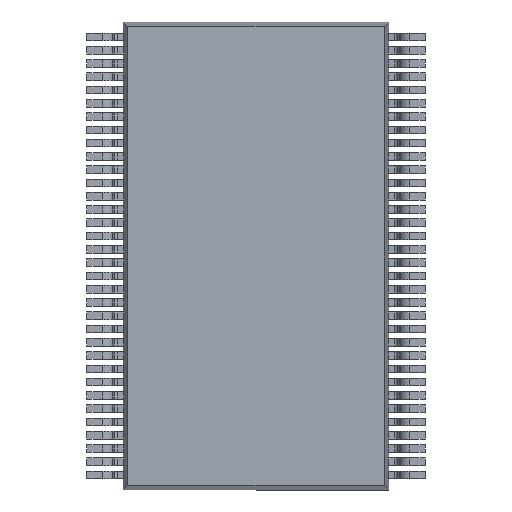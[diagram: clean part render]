
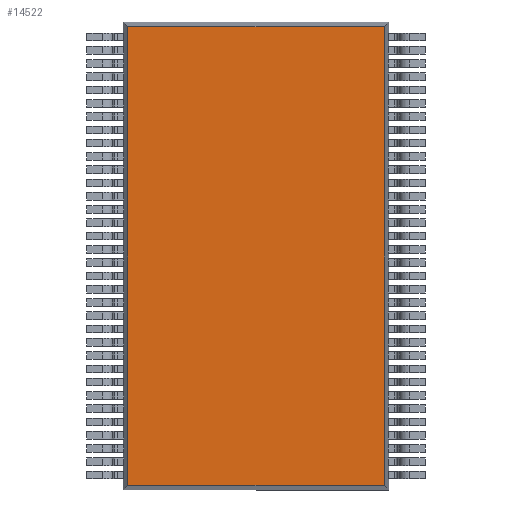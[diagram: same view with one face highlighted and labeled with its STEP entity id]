
A CAD part, front view. The second image highlights one B-rep face of the part: STEP entity #14522.
In plain terms, the highlighted planar face has unit normal (0, -1, 0).
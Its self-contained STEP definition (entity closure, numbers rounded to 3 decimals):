
#778 = CARTESIAN_POINT ( 'NONE',  ( -3.859, 0.1, 6.909 ) ) ;
#780 = CARTESIAN_POINT ( 'NONE',  ( -3.859, 0.1, -6.909 ) ) ;
#785 = CARTESIAN_POINT ( 'NONE',  ( 3.859, 0.1, 6.909 ) ) ;
#794 = CARTESIAN_POINT ( 'NONE',  ( 3.859, 0.1, -6.909 ) ) ;
#7801 = ORIENTED_EDGE ( 'NONE', *, *, #21934, .T. ) ;
#7802 = ORIENTED_EDGE ( 'NONE', *, *, #21535, .T. ) ;
#7803 = ORIENTED_EDGE ( 'NONE', *, *, #17362, .T. ) ;
#7804 = ORIENTED_EDGE ( 'NONE', *, *, #21536, .T. ) ;
#11047 = LINE ( 'NONE', #11862, #11050 ) ;
#11049 = LINE ( 'NONE', #11864, #11052 ) ;
#11050 = VECTOR ( 'NONE', #11863, 1000. ) ;
#11052 = VECTOR ( 'NONE', #11865, 1000. ) ;
#11862 = CARTESIAN_POINT ( 'NONE',  ( 4., 0.1, -6.909 ) ) ;
#11863 = DIRECTION ( 'NONE',  ( 1., 0., 0. ) ) ;
#11864 = CARTESIAN_POINT ( 'NONE',  ( 4., 0.1, 6.909 ) ) ;
#11865 = DIRECTION ( 'NONE',  ( -1., 0., 0. ) ) ;
#12776 = LINE ( 'NONE', #13384, #12841 ) ;
#12841 = VECTOR ( 'NONE', #13395, 1000. ) ;
#13384 = CARTESIAN_POINT ( 'NONE',  ( -3.859, 0.1, 7.05 ) ) ;
#13395 = DIRECTION ( 'NONE',  ( 0., 0., -1. ) ) ;
#14522 = ADVANCED_FACE ( 'NONE', ( #31988 ), #32561, .F. ) ;
#17362 = EDGE_CURVE ( 'NONE', #19750, #19741, #42358, .T. ) ;
#19734 = VERTEX_POINT ( 'NONE', #778 ) ;
#19736 = VERTEX_POINT ( 'NONE', #780 ) ;
#19741 = VERTEX_POINT ( 'NONE', #785 ) ;
#19750 = VERTEX_POINT ( 'NONE', #794 ) ;
#21535 = EDGE_CURVE ( 'NONE', #19736, #19750, #11047, .T. ) ;
#21536 = EDGE_CURVE ( 'NONE', #19741, #19734, #11049, .T. ) ;
#21934 = EDGE_CURVE ( 'NONE', #19734, #19736, #12776, .T. ) ;
#30406 = AXIS2_PLACEMENT_3D ( 'NONE', #32562, #32567, #32568 ) ;
#31988 = FACE_OUTER_BOUND ( 'NONE', #34227, .T. ) ;
#32561 = PLANE ( 'NONE',  #30406 ) ;
#32562 = CARTESIAN_POINT ( 'NONE',  ( 0., 0.1, 0. ) ) ;
#32567 = DIRECTION ( 'NONE',  ( 0., 1., 0. ) ) ;
#32568 = DIRECTION ( 'NONE',  ( 0., 0., 1. ) ) ;
#34227 = EDGE_LOOP ( 'NONE', ( #7801, #7802, #7803, #7804 ) ) ;
#42358 = LINE ( 'NONE', #42972, #42367 ) ;
#42367 = VECTOR ( 'NONE', #42984, 1000. ) ;
#42972 = CARTESIAN_POINT ( 'NONE',  ( 3.859, 0.1, 7.05 ) ) ;
#42984 = DIRECTION ( 'NONE',  ( 0., 0., 1. ) ) ;
